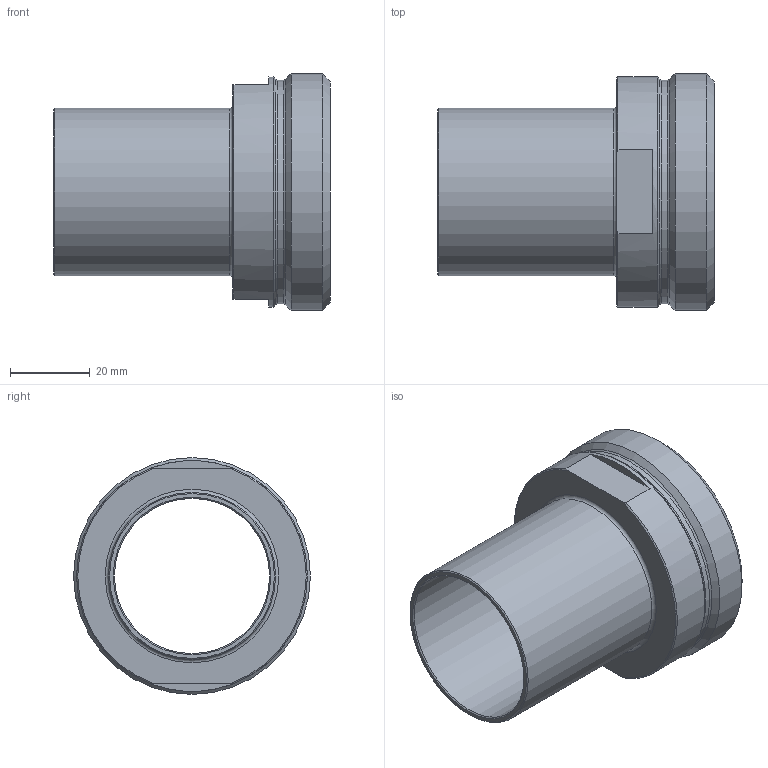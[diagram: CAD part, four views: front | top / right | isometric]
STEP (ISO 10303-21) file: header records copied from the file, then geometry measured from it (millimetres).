
FILE_DESCRIPTION(/* description */ (''),/* implementation_level */ '2;1');
FILE_NAME(/* name */ 'C:\Users\cad\Desktop\Zeichnungen neu von Ralph\3D_Kupplung_R666-PG\3D_R666-PG-42-DN50_17113688.stp',/* time_stamp */ '2021-06-23T15:37:48+02:00',/* author */ ('cad'),/* organization */ (''),/* preprocessor_version */ 'ST-DEVELOPER v18.1',/* originating_system */ 'Autodesk Inventor 2022',/* authorisation */ '');
FILE_SCHEMA (('AUTOMOTIVE_DESIGN { 1 0 10303 214 3 1 1 }'));
Length unit declared in the file: millimetre
Products named in the file (1): 3D_R666-PG-42-DN50_17113688
Bounding box: 69.5 x 59.5 x 59.5 mm (x, y, z)
Volume: 44066 mm3; surface area: 21748.1 mm2
Topology: 1 solids, 1 shells, 23 faces, 57 edges, 37 vertices
Faces by surface type: cone 8, plane 7, cylinder 5, torus 3
Full cylindrical faces by diameter (mm): 39 x1, 42 x1, 56.2 x1, 58 x1, 59.5 x1
Entity records: 742 total; most frequent: DIRECTION 135, CARTESIAN_POINT 126, ORIENTED_EDGE 114, AXIS2_PLACEMENT_3D 58, EDGE_CURVE 57, VERTEX_POINT 37, CIRCLE 34, EDGE_LOOP 26
